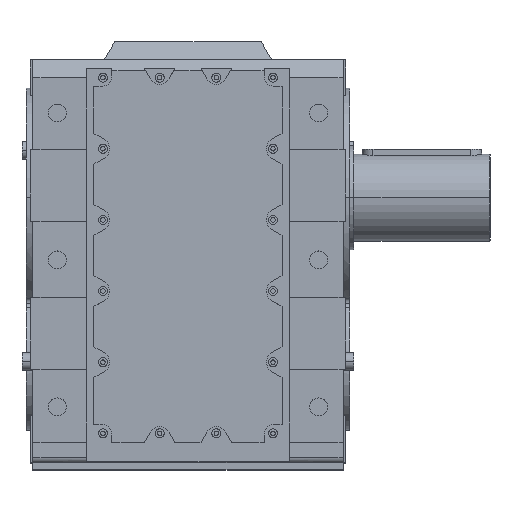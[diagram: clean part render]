
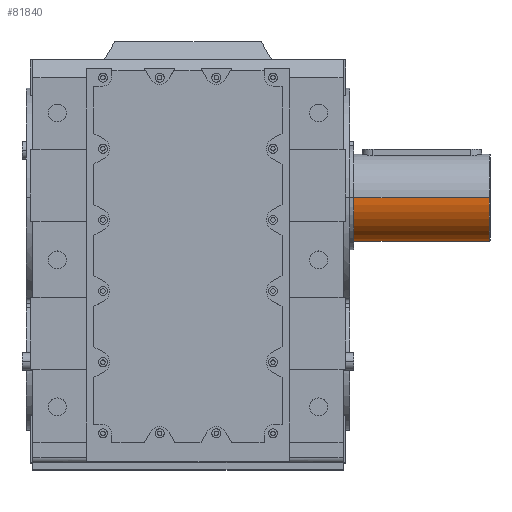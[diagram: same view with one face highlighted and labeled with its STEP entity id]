
A CAD part, top view. The second image highlights one B-rep face of the part: STEP entity #81840.
In plain terms, the highlighted cylindrical face has radius 80 mm (diameter 160 mm), a partial arc.
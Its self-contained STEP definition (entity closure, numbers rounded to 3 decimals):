
#80973 = CYLINDRICAL_SURFACE('',#80974,80.);
#80974 = AXIS2_PLACEMENT_3D('',#80975,#80976,#80977);
#80975 = CARTESIAN_POINT('',(0.,0.,0.));
#80976 = DIRECTION('',(-1.,0.,0.));
#80977 = DIRECTION('',(0.,0.,1.));
#81575 = VERTEX_POINT('',#81576);
#81576 = CARTESIAN_POINT('',(553.5,0.,80.));
#81577 = VERTEX_POINT('',#81578);
#81578 = CARTESIAN_POINT('',(553.5,0.,-80.));
#81626 = EDGE_CURVE('',#81577,#81627,#81629,.T.);
#81627 = VERTEX_POINT('',#81628);
#81628 = CARTESIAN_POINT('',(305.,0.,-80.));
#81629 = SURFACE_CURVE('',#81630,(#81634,#81640),.PCURVE_S1.);
#81630 = LINE('',#81631,#81632);
#81631 = CARTESIAN_POINT('',(0.,0.,-80.));
#81632 = VECTOR('',#81633,1.);
#81633 = DIRECTION('',(-1.,0.,0.));
#81634 = PCURVE('',#80973,#81635);
#81635 = DEFINITIONAL_REPRESENTATION('',(#81636),#81639);
#81636 = B_SPLINE_CURVE_WITH_KNOTS('',1,(#81637,#81638),.UNSPECIFIED.,
  .F.,.F.,(2,2),(-553.5,-305.),.PIECEWISE_BEZIER_KNOTS.);
#81637 = CARTESIAN_POINT('',(3.142,-553.5));
#81638 = CARTESIAN_POINT('',(3.142,-305.));
#81639 = ( GEOMETRIC_REPRESENTATION_CONTEXT(2) 
PARAMETRIC_REPRESENTATION_CONTEXT() REPRESENTATION_CONTEXT('2D SPACE',''
  ) );
#81640 = PCURVE('',#81641,#81646);
#81641 = CYLINDRICAL_SURFACE('',#81642,80.);
#81642 = AXIS2_PLACEMENT_3D('',#81643,#81644,#81645);
#81643 = CARTESIAN_POINT('',(0.,0.,0.));
#81644 = DIRECTION('',(-1.,0.,0.));
#81645 = DIRECTION('',(0.,0.,1.));
#81646 = DEFINITIONAL_REPRESENTATION('',(#81647),#81650);
#81647 = B_SPLINE_CURVE_WITH_KNOTS('',1,(#81648,#81649),.UNSPECIFIED.,
  .F.,.F.,(2,2),(-553.5,-305.),.PIECEWISE_BEZIER_KNOTS.);
#81648 = CARTESIAN_POINT('',(3.142,-553.5));
#81649 = CARTESIAN_POINT('',(3.142,-305.));
#81650 = ( GEOMETRIC_REPRESENTATION_CONTEXT(2) 
PARAMETRIC_REPRESENTATION_CONTEXT() REPRESENTATION_CONTEXT('2D SPACE',''
  ) );
#81653 = VERTEX_POINT('',#81654);
#81654 = CARTESIAN_POINT('',(305.,0.,80.));
#81668 = PLANE('',#81669);
#81669 = AXIS2_PLACEMENT_3D('',#81670,#81671,#81672);
#81670 = CARTESIAN_POINT('',(305.,80.,0.));
#81671 = DIRECTION('',(-1.,0.,0.));
#81672 = DIRECTION('',(0.,0.,1.));
#81680 = EDGE_CURVE('',#81575,#81653,#81681,.T.);
#81681 = SURFACE_CURVE('',#81682,(#81686,#81692),.PCURVE_S1.);
#81682 = LINE('',#81683,#81684);
#81683 = CARTESIAN_POINT('',(0.,0.,80.));
#81684 = VECTOR('',#81685,1.);
#81685 = DIRECTION('',(-1.,0.,0.));
#81686 = PCURVE('',#80973,#81687);
#81687 = DEFINITIONAL_REPRESENTATION('',(#81688),#81691);
#81688 = B_SPLINE_CURVE_WITH_KNOTS('',1,(#81689,#81690),.UNSPECIFIED.,
  .F.,.F.,(2,2),(-553.5,-305.),.PIECEWISE_BEZIER_KNOTS.);
#81689 = CARTESIAN_POINT('',(0.,-553.5));
#81690 = CARTESIAN_POINT('',(0.,-305.));
#81691 = ( GEOMETRIC_REPRESENTATION_CONTEXT(2) 
PARAMETRIC_REPRESENTATION_CONTEXT() REPRESENTATION_CONTEXT('2D SPACE',''
  ) );
#81692 = PCURVE('',#81641,#81693);
#81693 = DEFINITIONAL_REPRESENTATION('',(#81694),#81697);
#81694 = B_SPLINE_CURVE_WITH_KNOTS('',1,(#81695,#81696),.UNSPECIFIED.,
  .F.,.F.,(2,2),(-553.5,-305.),.PIECEWISE_BEZIER_KNOTS.);
#81695 = CARTESIAN_POINT('',(6.283,-553.5));
#81696 = CARTESIAN_POINT('',(6.283,-305.));
#81697 = ( GEOMETRIC_REPRESENTATION_CONTEXT(2) 
PARAMETRIC_REPRESENTATION_CONTEXT() REPRESENTATION_CONTEXT('2D SPACE',''
  ) );
#81820 = EDGE_CURVE('',#81627,#81653,#81821,.T.);
#81821 = SURFACE_CURVE('',#81822,(#81827,#81834),.PCURVE_S1.);
#81822 = CIRCLE('',#81823,80.);
#81823 = AXIS2_PLACEMENT_3D('',#81824,#81825,#81826);
#81824 = CARTESIAN_POINT('',(305.,0.,0.));
#81825 = DIRECTION('',(-1.,0.,0.));
#81826 = DIRECTION('',(0.,0.,1.));
#81827 = PCURVE('',#81668,#81828);
#81828 = DEFINITIONAL_REPRESENTATION('',(#81829),#81833);
#81829 = CIRCLE('',#81830,80.);
#81830 = AXIS2_PLACEMENT_2D('',#81831,#81832);
#81831 = CARTESIAN_POINT('',(0.,-80.));
#81832 = DIRECTION('',(1.,0.));
#81833 = ( GEOMETRIC_REPRESENTATION_CONTEXT(2) 
PARAMETRIC_REPRESENTATION_CONTEXT() REPRESENTATION_CONTEXT('2D SPACE',''
  ) );
#81834 = PCURVE('',#81641,#81835);
#81835 = DEFINITIONAL_REPRESENTATION('',(#81836),#81839);
#81836 = B_SPLINE_CURVE_WITH_KNOTS('',1,(#81837,#81838),.UNSPECIFIED.,
  .F.,.F.,(2,2),(3.142,6.283),.PIECEWISE_BEZIER_KNOTS.);
#81837 = CARTESIAN_POINT('',(3.142,-305.));
#81838 = CARTESIAN_POINT('',(6.283,-305.));
#81839 = ( GEOMETRIC_REPRESENTATION_CONTEXT(2) 
PARAMETRIC_REPRESENTATION_CONTEXT() REPRESENTATION_CONTEXT('2D SPACE',''
  ) );
#81840 = ADVANCED_FACE('',(#81841),#81641,.T.);
#81841 = FACE_BOUND('',#81842,.T.);
#81842 = EDGE_LOOP('',(#81843,#81844,#81892,#81893));
#81843 = ORIENTED_EDGE('',*,*,#81626,.F.);
#81844 = ORIENTED_EDGE('',*,*,#81845,.T.);
#81845 = EDGE_CURVE('',#81577,#81575,#81846,.T.);
#81846 = SURFACE_CURVE('',#81847,(#81852,#81858),.PCURVE_S1.);
#81847 = CIRCLE('',#81848,80.);
#81848 = AXIS2_PLACEMENT_3D('',#81849,#81850,#81851);
#81849 = CARTESIAN_POINT('',(553.5,0.,0.));
#81850 = DIRECTION('',(-1.,0.,0.));
#81851 = DIRECTION('',(0.,0.,1.));
#81852 = PCURVE('',#81641,#81853);
#81853 = DEFINITIONAL_REPRESENTATION('',(#81854),#81857);
#81854 = B_SPLINE_CURVE_WITH_KNOTS('',1,(#81855,#81856),.UNSPECIFIED.,
  .F.,.F.,(2,2),(3.142,6.283),.PIECEWISE_BEZIER_KNOTS.);
#81855 = CARTESIAN_POINT('',(3.142,-553.5));
#81856 = CARTESIAN_POINT('',(6.283,-553.5));
#81857 = ( GEOMETRIC_REPRESENTATION_CONTEXT(2) 
PARAMETRIC_REPRESENTATION_CONTEXT() REPRESENTATION_CONTEXT('2D SPACE',''
  ) );
#81858 = PCURVE('',#81859,#81864);
#81859 = CONICAL_SURFACE('',#81860,78.5,0.785);
#81860 = AXIS2_PLACEMENT_3D('',#81861,#81862,#81863);
#81861 = CARTESIAN_POINT('',(555.,0.,0.));
#81862 = DIRECTION('',(-1.,0.,0.));
#81863 = DIRECTION('',(0.,0.,1.));
#81864 = DEFINITIONAL_REPRESENTATION('',(#81865),#81891);
#81865 = B_SPLINE_CURVE_WITH_KNOTS('',3,(#81866,#81867,#81868,#81869,
    #81870,#81871,#81872,#81873,#81874,#81875,#81876,#81877,#81878,
    #81879,#81880,#81881,#81882,#81883,#81884,#81885,#81886,#81887,
    #81888,#81889,#81890),.UNSPECIFIED.,.F.,.F.,(4,1,1,1,1,1,1,1,1,1,1,1
    ,1,1,1,1,1,1,1,1,1,1,4),(3.142,3.284,3.427
    ,3.57,3.713,3.856,3.998,
    4.141,4.284,4.427,4.57,
    4.712,4.855,4.998,5.141,
    5.284,5.426,5.569,5.712,
    5.855,5.998,6.14,6.283),
  .QUASI_UNIFORM_KNOTS.);
#81866 = CARTESIAN_POINT('',(3.142,1.5));
#81867 = CARTESIAN_POINT('',(3.189,1.5));
#81868 = CARTESIAN_POINT('',(3.284,1.5));
#81869 = CARTESIAN_POINT('',(3.427,1.5));
#81870 = CARTESIAN_POINT('',(3.57,1.5));
#81871 = CARTESIAN_POINT('',(3.713,1.5));
#81872 = CARTESIAN_POINT('',(3.856,1.5));
#81873 = CARTESIAN_POINT('',(3.998,1.5));
#81874 = CARTESIAN_POINT('',(4.141,1.5));
#81875 = CARTESIAN_POINT('',(4.284,1.5));
#81876 = CARTESIAN_POINT('',(4.427,1.5));
#81877 = CARTESIAN_POINT('',(4.57,1.5));
#81878 = CARTESIAN_POINT('',(4.712,1.5));
#81879 = CARTESIAN_POINT('',(4.855,1.5));
#81880 = CARTESIAN_POINT('',(4.998,1.5));
#81881 = CARTESIAN_POINT('',(5.141,1.5));
#81882 = CARTESIAN_POINT('',(5.284,1.5));
#81883 = CARTESIAN_POINT('',(5.426,1.5));
#81884 = CARTESIAN_POINT('',(5.569,1.5));
#81885 = CARTESIAN_POINT('',(5.712,1.5));
#81886 = CARTESIAN_POINT('',(5.855,1.5));
#81887 = CARTESIAN_POINT('',(5.998,1.5));
#81888 = CARTESIAN_POINT('',(6.14,1.5));
#81889 = CARTESIAN_POINT('',(6.236,1.5));
#81890 = CARTESIAN_POINT('',(6.283,1.5));
#81891 = ( GEOMETRIC_REPRESENTATION_CONTEXT(2) 
PARAMETRIC_REPRESENTATION_CONTEXT() REPRESENTATION_CONTEXT('2D SPACE',''
  ) );
#81892 = ORIENTED_EDGE('',*,*,#81680,.T.);
#81893 = ORIENTED_EDGE('',*,*,#81820,.F.);
